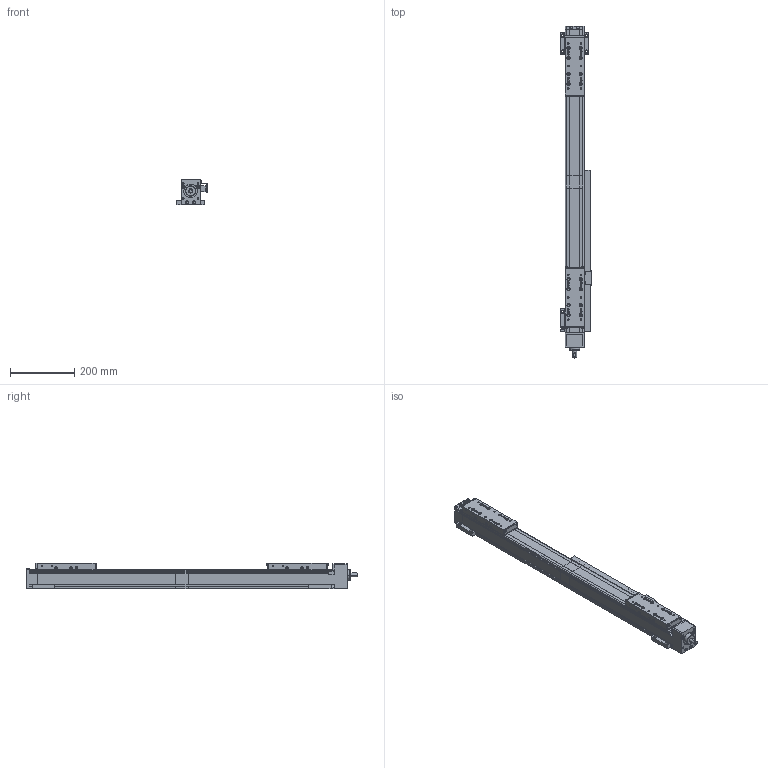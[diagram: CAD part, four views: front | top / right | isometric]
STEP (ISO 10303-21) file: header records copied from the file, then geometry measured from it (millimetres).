
FILE_DESCRIPTION(('Creo Elements/Direct Modeling STEP Export'),'2;1');
FILE_NAME('B060-SSS-RL-180-EN.stp','2020-02-24T10:00:53',(''),(''),'Creo Elements/Direct Modeling STEP processor for AP214 (Solid Model)','Creo Elements/Direct Modeling 20.1C 13-Oct-2019 (C) Parametric Technology GmbH','');
FILE_SCHEMA(('AUTOMOTIVE_DESIGN { 1 0 10303 214 1 1 1 1 }'));
Length unit declared in the file: millimetre
Products named in the file (26): Endschalterprofil; Endschalter_induktiv; Endschalter_induktiv.2; Endschalter_induktiv.1; Induktive_Endschalter_mit_EN-Profil; Schaltfahne_10407; Linsenschraube_M4x8_EN_ISO_7380_1_10.9_vz_10243.01; Schaltfahne_10407_kpl; Induktive-Endschalter; Beta060-SSS-Schlitten; Abstreiferbuerste-Blau_14646.02; Schraube_M_4x10_ISO_7380_10.9_vz_10248; Abstreifer_kpl; Beta060-SSS-Schlitten_kpl; BL5_14489.02; Befestigungsleistenpaar; Befestigungsleistenpaar.1; Befestigungsleisten; Beta060-SSS-Grundkoerper-Teil1; Beta060-SSS-Grundkoerper-Teil2; NS8_14644.02; Nutensteinpaar; Nutensteine; Beta060-SSS-Schlitten.02; Beta060-SSS-Schlitten_kpl.02; B060-SSS-RL-180-EN
Assembly tree (34 placements, depth 4):
  B060-SSS-RL-180-EN
    Beta060-SSS-Schlitten_kpl.02
      Abstreifer_kpl  x2
        Schraube_M_4x10_ISO_7380_10.9_vz_10248
        Abstreiferbuerste-Blau_14646.02
      Beta060-SSS-Schlitten.02
    Nutensteine
      Nutensteinpaar
        NS8_14644.02  x2
    Beta060-SSS-Grundkoerper-Teil2
    Beta060-SSS-Grundkoerper-Teil1
    Befestigungsleisten
      Befestigungsleistenpaar.1
        BL5_14489.02  x2
      Befestigungsleistenpaar
        BL5_14489.02  x2
    Beta060-SSS-Schlitten_kpl
      Abstreifer_kpl  x2
        Schraube_M_4x10_ISO_7380_10.9_vz_10248
        Abstreiferbuerste-Blau_14646.02
      Beta060-SSS-Schlitten
    Induktive-Endschalter
      Schaltfahne_10407_kpl
        Linsenschraube_M4x8_EN_ISO_7380_1_10.9_vz_10243.01  x2
        Schaltfahne_10407
      Induktive_Endschalter_mit_EN-Profil
        Endschalter_induktiv.1
        Endschalter_induktiv.2
        Endschalter_induktiv
        Endschalterprofil
Bounding box: 94.5 x 1034 x 80 mm (x, y, z)
Volume: 4032053.3 mm3; surface area: 528153.4 mm2
Topology: 29 solids, 29 shells, 2427 faces, 6151 edges, 3967 vertices
Faces by surface type: plane 1784, cylinder 457, cone 136, torus 26, sphere 24
Entity records: 44301 total; most frequent: CARTESIAN_POINT 9222, ORIENTED_EDGE 7276, DIRECTION 6173, EDGE_CURVE 3638, VECTOR 2503, LINE 2503, VERTEX_POINT 2342, AXIS2_PLACEMENT_3D 1835
